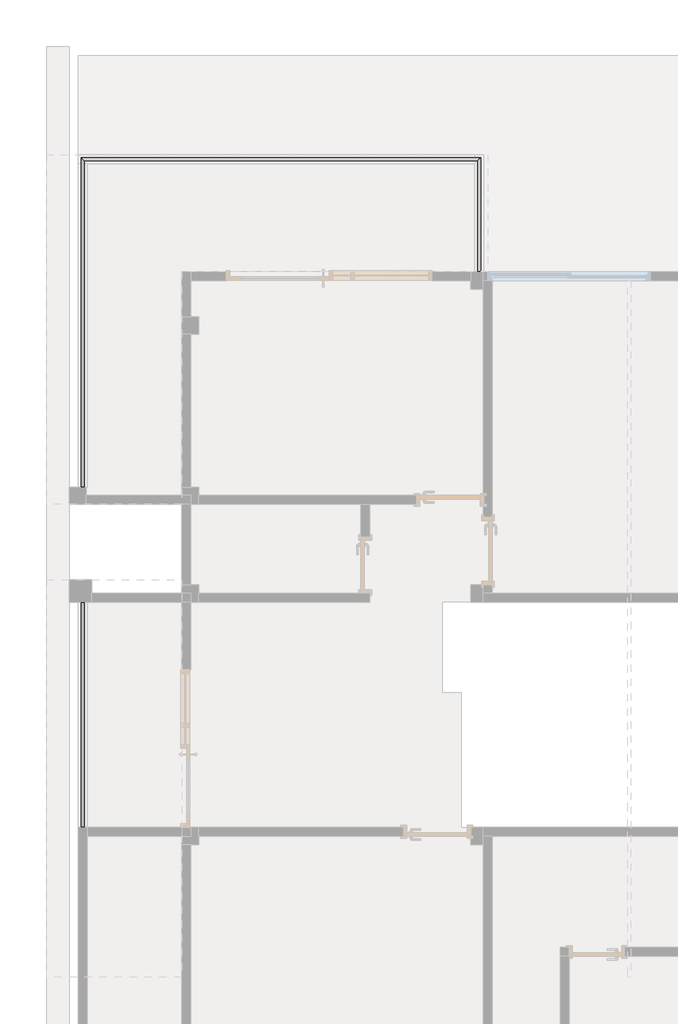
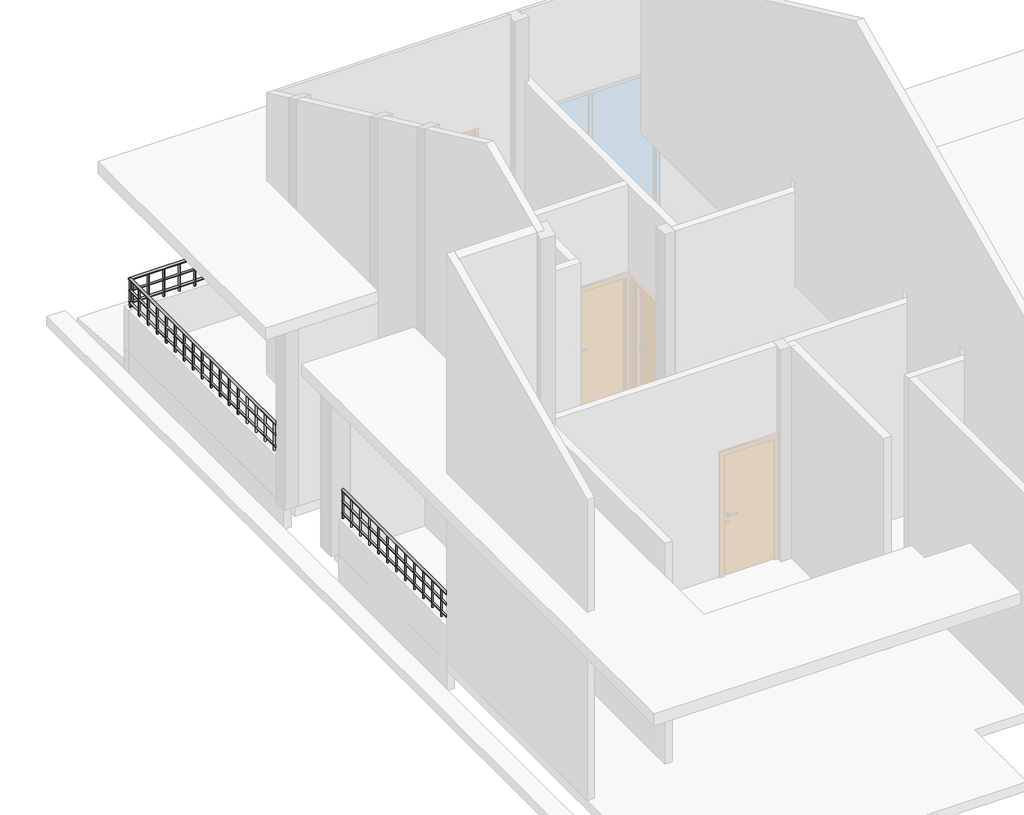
# One storey, part 4 of 6: 2 railings.
"""IFC4 building model written with IfcOpenShell, lengths in millimetres."""

from ifc_helpers import new_model, si_unit, point, frame, frame_2d, origin, place, context, project, spatial, circle_curve, ellipse_curve, trimmed, segment, composite_curve, outline, extrude, element, save
from ifc_brep_helpers import plane_surface, cylinder_surface, advanced_brep

model = new_model("IFC4")

# Units and contexts
model_context = context("Model", 3, world=origin())
ifc_project = project(units=[si_unit("LENGTHUNIT", "METRE", prefix="MILLI")], contexts=[model_context])

# Site, building, storey
site = spatial("IfcSite", under=ifc_project)
building = spatial("IfcBuilding", under=site)
storey = spatial("IfcBuildingStorey", under=building, Name="标高 2", Elevation=3900.0)

# Railings
placement = place(None, origin())
element("IfcRailing", 1, ObjectType="500 圆管", at=placement, inside=storey, context=model_context, shape_type="SolidModel", body=[
    advanced_brep(
    [(-2199.0293904, 13288.7732284, 4980.0), (-2239.0293904, 13288.7732284, 4980.0), (-2199.0293904, 14808.7732284, 4980.0), (-2239.0293904, 14768.7732284, 4980.0), (-7524.0293904, 14808.7732284, 4980.0), (-7484.0293904, 14768.7732284, 4980.0), (-7524.0293904, 10418.7732284, 4980.0), (-7484.0293904, 10418.7732284, 4980.0)],
    [
        (0, 1, circle_curve(frame((-2219.0293904, 13288.7732284, 4980.0), z_axis=(0.0, -1.0, 0.0), x_axis=(-1.0, 0.0, 0.0)), 20.0)),
        (1, 0, circle_curve(frame((-2219.0293904, 13288.7732284, 4980.0), z_axis=(0.0, -1.0, 0.0), x_axis=(-1.0, 0.0, 0.0)), 20.0)),
        (0, 2),
        (2, 3, ellipse_curve(frame((-2219.0293904, 14788.7732284, 4980.0), z_axis=(0.7071067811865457, -0.7071067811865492, 0.0), x_axis=(-0.7071067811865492, -0.7071067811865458, 0.0)), 28.2842712, 20.0)),
        (3, 1),
        (3, 2, ellipse_curve(frame((-2219.0293904, 14788.7732284, 4980.0), z_axis=(0.7071067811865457, -0.7071067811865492, 0.0), x_axis=(-0.7071067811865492, -0.7071067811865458, 0.0)), 28.2842712, 20.0)),
        (2, 4),
        (4, 5, ellipse_curve(frame((-7504.0293904, 14788.7732284, 4980.0), z_axis=(0.7071067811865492, 0.7071067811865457, 0.0), x_axis=(0.7071067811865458, -0.7071067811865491, 0.0)), 28.2842712, 20.0)),
        (5, 3),
        (5, 4, ellipse_curve(frame((-7504.0293904, 14788.7732284, 4980.0), z_axis=(0.7071067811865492, 0.7071067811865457, 0.0), x_axis=(0.7071067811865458, -0.7071067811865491, 0.0)), 28.2842712, 20.0)),
        (6, 7, circle_curve(frame((-7504.0293904, 10418.7732284, 4980.0), z_axis=(0.0, -1.0, 0.0), x_axis=(1.0, 0.0, 0.0)), 20.0)),
        (7, 6, circle_curve(frame((-7504.0293904, 10418.7732284, 4980.0), z_axis=(0.0, -1.0, 0.0), x_axis=(1.0, 0.0, 0.0)), 20.0)),
        (4, 6),
        (7, 5),
    ],
    [
        plane_surface(frame((-2219.0293904, 13288.7732284, 5000.0), z_axis=(0.0, -1.0, 0.0), x_axis=(0.0, 0.0, 1.0))),
        cylinder_surface(frame((-2219.0293904, 13288.7732284, 4980.0), z_axis=(0.0, -1.0, 0.0), x_axis=(-1.0, 0.0, 0.0)), 20.0),
        cylinder_surface(frame((-2219.0293904, 14788.7732284, 4980.0), z_axis=(1.0, 0.0, 0.0), x_axis=(0.0, -1.0, 0.0)), 20.0),
        plane_surface(frame((-7504.0293904, 10418.7732284, 5000.0), z_axis=(0.0, -1.0, 0.0), x_axis=(0.0, 0.0, -1.0))),
        cylinder_surface(frame((-7504.0293904, 14788.7732284, 4980.0), z_axis=(0.0, 1.0, 0.0), x_axis=(1.0, 0.0, 0.0)), 20.0),
    ],
    [
        (0, [[1, 2]]),
        (1, [[-1, 3, 4, 5]]),
        (1, [[-2, -5, 6, -3]]),
        (2, [[-4, 7, 8, 9]]),
        (2, [[-6, -9, 10, -7]]),
        (3, [[11, 12]]),
        (4, [[-8, 13, -12, 14]]),
        (4, [[-10, -14, -11, -13]]),
    ],
),
    advanced_brep(
    [(-2234.0293904, 13288.7732284, 4785.0), (-2204.0293904, 13288.7732284, 4785.0), (-2234.0293904, 14773.7732284, 4785.0), (-2204.0293904, 14803.7732284, 4785.0), (-7489.0293904, 14773.7732284, 4785.0), (-7519.0293904, 14803.7732284, 4785.0), (-7489.0293904, 10418.7732284, 4785.0), (-7519.0293904, 10418.7732284, 4785.0)],
    [
        (0, 1, circle_curve(frame((-2219.0293904, 13288.7732284, 4785.0), z_axis=(0.0, -1.0, 0.0), x_axis=(1.0, 0.0, 0.0)), 15.0)),
        (1, 0, circle_curve(frame((-2219.0293904, 13288.7732284, 4785.0), z_axis=(0.0, -1.0, 0.0), x_axis=(1.0, 0.0, 0.0)), 15.0)),
        (0, 2),
        (2, 3, ellipse_curve(frame((-2219.0293904, 14788.7732284, 4785.0), z_axis=(0.7071067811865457, -0.7071067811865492, 0.0), x_axis=(-0.7071067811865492, -0.7071067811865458, 0.0)), 21.2132034, 15.0)),
        (3, 1),
        (3, 2, ellipse_curve(frame((-2219.0293904, 14788.7732284, 4785.0), z_axis=(0.7071067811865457, -0.7071067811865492, 0.0), x_axis=(-0.7071067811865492, -0.7071067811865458, 0.0)), 21.2132034, 15.0)),
        (2, 4),
        (4, 5, ellipse_curve(frame((-7504.0293904, 14788.7732284, 4785.0), z_axis=(0.7071067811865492, 0.7071067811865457, 0.0), x_axis=(0.7071067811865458, -0.7071067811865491, 0.0)), 21.2132034, 15.0)),
        (5, 3),
        (5, 4, ellipse_curve(frame((-7504.0293904, 14788.7732284, 4785.0), z_axis=(0.7071067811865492, 0.7071067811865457, 0.0), x_axis=(0.7071067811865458, -0.7071067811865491, 0.0)), 21.2132034, 15.0)),
        (6, 7, circle_curve(frame((-7504.0293904, 10418.7732284, 4785.0), z_axis=(0.0, -1.0, 0.0), x_axis=(-1.0, 0.0, 0.0)), 15.0)),
        (7, 6, circle_curve(frame((-7504.0293904, 10418.7732284, 4785.0), z_axis=(0.0, -1.0, 0.0), x_axis=(-1.0, 0.0, 0.0)), 15.0)),
        (4, 6),
        (7, 5),
    ],
    [
        plane_surface(frame((-2219.0293904, 13288.7732284, 4800.0), z_axis=(0.0, -1.0, 0.0), x_axis=(0.0, 0.0, 1.0))),
        cylinder_surface(frame((-2219.0293904, 13288.7732284, 4785.0), z_axis=(0.0, -1.0, 0.0), x_axis=(1.0, 0.0, 0.0)), 15.0),
        cylinder_surface(frame((-2219.0293904, 14788.7732284, 4785.0), z_axis=(1.0, 0.0, 0.0), x_axis=(0.0, 1.0, 0.0)), 15.0),
        plane_surface(frame((-7504.0293904, 10418.7732284, 4800.0), z_axis=(0.0, -1.0, 0.0), x_axis=(0.0, 0.0, -1.0))),
        cylinder_surface(frame((-7504.0293904, 14788.7732284, 4785.0), z_axis=(0.0, 1.0, 0.0), x_axis=(-1.0, 0.0, 0.0)), 15.0),
    ],
    [
        (0, [[1, 2]]),
        (1, [[-1, 3, 4, 5]]),
        (1, [[-2, -5, 6, -3]]),
        (2, [[-4, 7, 8, 9]]),
        (2, [[-6, -9, 10, -7]]),
        (3, [[11, 12]]),
        (4, [[-8, 13, -12, 14]]),
        (4, [[-10, -14, -11, -13]]),
    ],
),
    advanced_brep(
    [(-2234.0293904, 13288.7732284, 4585.0), (-2204.0293904, 13288.7732284, 4585.0), (-2234.0293904, 14773.7732284, 4585.0), (-2204.0293904, 14803.7732284, 4585.0), (-7489.0293904, 14773.7732284, 4585.0), (-7519.0293904, 14803.7732284, 4585.0), (-7489.0293904, 10418.7732284, 4585.0), (-7519.0293904, 10418.7732284, 4585.0)],
    [
        (0, 1, circle_curve(frame((-2219.0293904, 13288.7732284, 4585.0), z_axis=(0.0, -1.0, 0.0), x_axis=(1.0, 0.0, 0.0)), 15.0)),
        (1, 0, circle_curve(frame((-2219.0293904, 13288.7732284, 4585.0), z_axis=(0.0, -1.0, 0.0), x_axis=(1.0, 0.0, 0.0)), 15.0)),
        (0, 2),
        (2, 3, ellipse_curve(frame((-2219.0293904, 14788.7732284, 4585.0), z_axis=(0.7071067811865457, -0.7071067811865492, 0.0), x_axis=(-0.7071067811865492, -0.7071067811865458, 0.0)), 21.2132034, 15.0)),
        (3, 1),
        (3, 2, ellipse_curve(frame((-2219.0293904, 14788.7732284, 4585.0), z_axis=(0.7071067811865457, -0.7071067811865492, 0.0), x_axis=(-0.7071067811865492, -0.7071067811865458, 0.0)), 21.2132034, 15.0)),
        (2, 4),
        (4, 5, ellipse_curve(frame((-7504.0293904, 14788.7732284, 4585.0), z_axis=(0.7071067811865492, 0.7071067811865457, 0.0), x_axis=(0.7071067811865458, -0.7071067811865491, 0.0)), 21.2132034, 15.0)),
        (5, 3),
        (5, 4, ellipse_curve(frame((-7504.0293904, 14788.7732284, 4585.0), z_axis=(0.7071067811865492, 0.7071067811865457, 0.0), x_axis=(0.7071067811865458, -0.7071067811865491, 0.0)), 21.2132034, 15.0)),
        (6, 7, circle_curve(frame((-7504.0293904, 10418.7732284, 4585.0), z_axis=(0.0, -1.0, 0.0), x_axis=(-1.0, 0.0, 0.0)), 15.0)),
        (7, 6, circle_curve(frame((-7504.0293904, 10418.7732284, 4585.0), z_axis=(0.0, -1.0, 0.0), x_axis=(-1.0, 0.0, 0.0)), 15.0)),
        (4, 6),
        (7, 5),
    ],
    [
        plane_surface(frame((-2219.0293904, 13288.7732284, 4600.0), z_axis=(0.0, -1.0, 0.0), x_axis=(0.0, 0.0, 1.0))),
        cylinder_surface(frame((-2219.0293904, 13288.7732284, 4585.0), z_axis=(0.0, -1.0, 0.0), x_axis=(1.0, 0.0, 0.0)), 15.0),
        cylinder_surface(frame((-2219.0293904, 14788.7732284, 4585.0), z_axis=(1.0, 0.0, 0.0), x_axis=(0.0, 1.0, 0.0)), 15.0),
        plane_surface(frame((-7504.0293904, 10418.7732284, 4600.0), z_axis=(0.0, -1.0, 0.0), x_axis=(0.0, 0.0, -1.0))),
        cylinder_surface(frame((-7504.0293904, 14788.7732284, 4585.0), z_axis=(0.0, 1.0, 0.0), x_axis=(-1.0, 0.0, 0.0)), 15.0),
    ],
    [
        (0, [[1, 2]]),
        (1, [[-1, 3, 4, 5]]),
        (1, [[-2, -5, 6, -3]]),
        (2, [[-4, 7, 8, 9]]),
        (2, [[-6, -9, 10, -7]]),
        (3, [[11, 12]]),
        (4, [[-8, 13, -12, 14]]),
        (4, [[-10, -14, -11, -13]]),
    ],
),
    extrude(outline(composite_curve([segment(trimmed(circle_curve(frame_2d((-7504.0293904, 10538.7732284)), 12.5), [point((-7491.5293904, 10538.7732284))], [point((-7516.5293904, 10538.7732284))], False, "CARTESIAN"), True, "CONTINUOUS"), segment(trimmed(circle_curve(frame_2d((-7504.0293904, 10538.7732284)), 12.5), [point((-7516.5293904, 10538.7732284))], [point((-7491.5293904, 10538.7732284))], False, "CARTESIAN"), True, "CONTINUOUS")], self_intersect=False)), frame((0.0, 0.0, 4500.0), z_axis=(0.0, 0.0, 1.0), x_axis=(1.0, 0.0, 0.0)), (0.0, 0.0, 1.0), 460.0),
    extrude(outline(composite_curve([segment(trimmed(circle_curve(frame_2d((-7504.0293904, 10788.7732284)), 12.5), [point((-7491.5293904, 10788.7732284))], [point((-7516.5293904, 10788.7732284))], False, "CARTESIAN"), True, "CONTINUOUS"), segment(trimmed(circle_curve(frame_2d((-7504.0293904, 10788.7732284)), 12.5), [point((-7516.5293904, 10788.7732284))], [point((-7491.5293904, 10788.7732284))], False, "CARTESIAN"), True, "CONTINUOUS")], self_intersect=False)), frame((0.0, 0.0, 4500.0), z_axis=(0.0, 0.0, 1.0), x_axis=(1.0, 0.0, 0.0)), (0.0, 0.0, 1.0), 460.0),
    extrude(outline(composite_curve([segment(trimmed(circle_curve(frame_2d((-7504.0293904, 11038.7732284)), 12.5), [point((-7491.5293904, 11038.7732284))], [point((-7516.5293904, 11038.7732284))], False, "CARTESIAN"), True, "CONTINUOUS"), segment(trimmed(circle_curve(frame_2d((-7504.0293904, 11038.7732284)), 12.5), [point((-7516.5293904, 11038.7732284))], [point((-7491.5293904, 11038.7732284))], False, "CARTESIAN"), True, "CONTINUOUS")], self_intersect=False)), frame((0.0, 0.0, 4500.0), z_axis=(0.0, 0.0, 1.0), x_axis=(1.0, 0.0, 0.0)), (0.0, 0.0, 1.0), 460.0),
    extrude(outline(composite_curve([segment(trimmed(circle_curve(frame_2d((-7504.0293904, 11288.7732284)), 12.5), [point((-7491.5293904, 11288.7732284))], [point((-7516.5293904, 11288.7732284))], False, "CARTESIAN"), True, "CONTINUOUS"), segment(trimmed(circle_curve(frame_2d((-7504.0293904, 11288.7732284)), 12.5), [point((-7516.5293904, 11288.7732284))], [point((-7491.5293904, 11288.7732284))], False, "CARTESIAN"), True, "CONTINUOUS")], self_intersect=False)), frame((0.0, 0.0, 4500.0), z_axis=(0.0, 0.0, 1.0), x_axis=(1.0, 0.0, 0.0)), (0.0, 0.0, 1.0), 460.0),
    extrude(outline(composite_curve([segment(trimmed(circle_curve(frame_2d((-7504.0293904, 11538.7732284)), 12.5), [point((-7491.5293904, 11538.7732284))], [point((-7516.5293904, 11538.7732284))], False, "CARTESIAN"), True, "CONTINUOUS"), segment(trimmed(circle_curve(frame_2d((-7504.0293904, 11538.7732284)), 12.5), [point((-7516.5293904, 11538.7732284))], [point((-7491.5293904, 11538.7732284))], False, "CARTESIAN"), True, "CONTINUOUS")], self_intersect=False)), frame((0.0, 0.0, 4500.0), z_axis=(0.0, 0.0, 1.0), x_axis=(1.0, 0.0, 0.0)), (0.0, 0.0, 1.0), 460.0),
    extrude(outline(composite_curve([segment(trimmed(circle_curve(frame_2d((-7504.0293904, 11788.7732284)), 12.5), [point((-7491.5293904, 11788.7732284))], [point((-7516.5293904, 11788.7732284))], False, "CARTESIAN"), True, "CONTINUOUS"), segment(trimmed(circle_curve(frame_2d((-7504.0293904, 11788.7732284)), 12.5), [point((-7516.5293904, 11788.7732284))], [point((-7491.5293904, 11788.7732284))], False, "CARTESIAN"), True, "CONTINUOUS")], self_intersect=False)), frame((0.0, 0.0, 4500.0), z_axis=(0.0, 0.0, 1.0), x_axis=(1.0, 0.0, 0.0)), (0.0, 0.0, 1.0), 460.0),
    extrude(outline(composite_curve([segment(trimmed(circle_curve(frame_2d((-7504.0293904, 12038.7732284)), 12.5), [point((-7491.5293904, 12038.7732284))], [point((-7516.5293904, 12038.7732284))], False, "CARTESIAN"), True, "CONTINUOUS"), segment(trimmed(circle_curve(frame_2d((-7504.0293904, 12038.7732284)), 12.5), [point((-7516.5293904, 12038.7732284))], [point((-7491.5293904, 12038.7732284))], False, "CARTESIAN"), True, "CONTINUOUS")], self_intersect=False)), frame((0.0, 0.0, 4500.0), z_axis=(0.0, 0.0, 1.0), x_axis=(1.0, 0.0, 0.0)), (0.0, 0.0, 1.0), 460.0),
    extrude(outline(composite_curve([segment(trimmed(circle_curve(frame_2d((-7504.0293904, 12288.7732284)), 12.5), [point((-7491.5293904, 12288.7732284))], [point((-7516.5293904, 12288.7732284))], False, "CARTESIAN"), True, "CONTINUOUS"), segment(trimmed(circle_curve(frame_2d((-7504.0293904, 12288.7732284)), 12.5), [point((-7516.5293904, 12288.7732284))], [point((-7491.5293904, 12288.7732284))], False, "CARTESIAN"), True, "CONTINUOUS")], self_intersect=False)), frame((0.0, 0.0, 4500.0), z_axis=(0.0, 0.0, 1.0), x_axis=(1.0, 0.0, 0.0)), (0.0, 0.0, 1.0), 460.0),
    extrude(outline(composite_curve([segment(trimmed(circle_curve(frame_2d((-7504.0293904, 12538.7732284)), 12.5), [point((-7491.5293904, 12538.7732284))], [point((-7516.5293904, 12538.7732284))], False, "CARTESIAN"), True, "CONTINUOUS"), segment(trimmed(circle_curve(frame_2d((-7504.0293904, 12538.7732284)), 12.5), [point((-7516.5293904, 12538.7732284))], [point((-7491.5293904, 12538.7732284))], False, "CARTESIAN"), True, "CONTINUOUS")], self_intersect=False)), frame((0.0, 0.0, 4500.0), z_axis=(0.0, 0.0, 1.0), x_axis=(1.0, 0.0, 0.0)), (0.0, 0.0, 1.0), 460.0),
    extrude(outline(composite_curve([segment(trimmed(circle_curve(frame_2d((-7504.0293904, 12788.7732284)), 12.5), [point((-7491.5293904, 12788.7732284))], [point((-7516.5293904, 12788.7732284))], False, "CARTESIAN"), True, "CONTINUOUS"), segment(trimmed(circle_curve(frame_2d((-7504.0293904, 12788.7732284)), 12.5), [point((-7516.5293904, 12788.7732284))], [point((-7491.5293904, 12788.7732284))], False, "CARTESIAN"), True, "CONTINUOUS")], self_intersect=False)), frame((0.0, 0.0, 4500.0), z_axis=(0.0, 0.0, 1.0), x_axis=(1.0, 0.0, 0.0)), (0.0, 0.0, 1.0), 460.0),
    extrude(outline(composite_curve([segment(trimmed(circle_curve(frame_2d((-7504.0293904, 13038.7732284)), 12.5), [point((-7491.5293904, 13038.7732284))], [point((-7516.5293904, 13038.7732284))], False, "CARTESIAN"), True, "CONTINUOUS"), segment(trimmed(circle_curve(frame_2d((-7504.0293904, 13038.7732284)), 12.5), [point((-7516.5293904, 13038.7732284))], [point((-7491.5293904, 13038.7732284))], False, "CARTESIAN"), True, "CONTINUOUS")], self_intersect=False)), frame((0.0, 0.0, 4500.0), z_axis=(0.0, 0.0, 1.0), x_axis=(1.0, 0.0, 0.0)), (0.0, 0.0, 1.0), 460.0),
    extrude(outline(composite_curve([segment(trimmed(circle_curve(frame_2d((-7504.0293904, 13288.7732284)), 12.5), [point((-7491.5293904, 13288.7732284))], [point((-7516.5293904, 13288.7732284))], False, "CARTESIAN"), True, "CONTINUOUS"), segment(trimmed(circle_curve(frame_2d((-7504.0293904, 13288.7732284)), 12.5), [point((-7516.5293904, 13288.7732284))], [point((-7491.5293904, 13288.7732284))], False, "CARTESIAN"), True, "CONTINUOUS")], self_intersect=False)), frame((0.0, 0.0, 4500.0), z_axis=(0.0, 0.0, 1.0), x_axis=(1.0, 0.0, 0.0)), (0.0, 0.0, 1.0), 460.0),
    extrude(outline(composite_curve([segment(trimmed(circle_curve(frame_2d((-7504.0293904, 13538.7732284)), 12.5), [point((-7491.5293904, 13538.7732284))], [point((-7516.5293904, 13538.7732284))], False, "CARTESIAN"), True, "CONTINUOUS"), segment(trimmed(circle_curve(frame_2d((-7504.0293904, 13538.7732284)), 12.5), [point((-7516.5293904, 13538.7732284))], [point((-7491.5293904, 13538.7732284))], False, "CARTESIAN"), True, "CONTINUOUS")], self_intersect=False)), frame((0.0, 0.0, 4500.0), z_axis=(0.0, 0.0, 1.0), x_axis=(1.0, 0.0, 0.0)), (0.0, 0.0, 1.0), 460.0),
    extrude(outline(composite_curve([segment(trimmed(circle_curve(frame_2d((-7504.0293904, 13788.7732284)), 12.5), [point((-7491.5293904, 13788.7732284))], [point((-7516.5293904, 13788.7732284))], False, "CARTESIAN"), True, "CONTINUOUS"), segment(trimmed(circle_curve(frame_2d((-7504.0293904, 13788.7732284)), 12.5), [point((-7516.5293904, 13788.7732284))], [point((-7491.5293904, 13788.7732284))], False, "CARTESIAN"), True, "CONTINUOUS")], self_intersect=False)), frame((0.0, 0.0, 4500.0), z_axis=(0.0, 0.0, 1.0), x_axis=(1.0, 0.0, 0.0)), (0.0, 0.0, 1.0), 460.0),
    extrude(outline(composite_curve([segment(trimmed(circle_curve(frame_2d((-7504.0293904, 14038.7732284)), 12.5), [point((-7491.5293904, 14038.7732284))], [point((-7516.5293904, 14038.7732284))], False, "CARTESIAN"), True, "CONTINUOUS"), segment(trimmed(circle_curve(frame_2d((-7504.0293904, 14038.7732284)), 12.5), [point((-7516.5293904, 14038.7732284))], [point((-7491.5293904, 14038.7732284))], False, "CARTESIAN"), True, "CONTINUOUS")], self_intersect=False)), frame((0.0, 0.0, 4500.0), z_axis=(0.0, 0.0, 1.0), x_axis=(1.0, 0.0, 0.0)), (0.0, 0.0, 1.0), 460.0),
    extrude(outline(composite_curve([segment(trimmed(circle_curve(frame_2d((-7504.0293904, 14288.7732284)), 12.5), [point((-7491.5293904, 14288.7732284))], [point((-7516.5293904, 14288.7732284))], False, "CARTESIAN"), True, "CONTINUOUS"), segment(trimmed(circle_curve(frame_2d((-7504.0293904, 14288.7732284)), 12.5), [point((-7516.5293904, 14288.7732284))], [point((-7491.5293904, 14288.7732284))], False, "CARTESIAN"), True, "CONTINUOUS")], self_intersect=False)), frame((0.0, 0.0, 4500.0), z_axis=(0.0, 0.0, 1.0), x_axis=(1.0, 0.0, 0.0)), (0.0, 0.0, 1.0), 460.0),
    extrude(outline(composite_curve([segment(trimmed(circle_curve(frame_2d((-7504.0293904, 14538.7732284)), 12.5), [point((-7491.5293904, 14538.7732284))], [point((-7516.5293904, 14538.7732284))], False, "CARTESIAN"), True, "CONTINUOUS"), segment(trimmed(circle_curve(frame_2d((-7504.0293904, 14538.7732284)), 12.5), [point((-7516.5293904, 14538.7732284))], [point((-7491.5293904, 14538.7732284))], False, "CARTESIAN"), True, "CONTINUOUS")], self_intersect=False)), frame((0.0, 0.0, 4500.0), z_axis=(0.0, 0.0, 1.0), x_axis=(1.0, 0.0, 0.0)), (0.0, 0.0, 1.0), 460.0),
    extrude(outline(composite_curve([segment(trimmed(circle_curve(frame_2d((-7469.0293904, 14788.7732284)), 12.5), [point((-7469.0293904, 14776.2732284))], [point((-7469.0293904, 14801.2732284))], False, "CARTESIAN"), True, "CONTINUOUS"), segment(trimmed(circle_curve(frame_2d((-7469.0293904, 14788.7732284)), 12.5), [point((-7469.0293904, 14801.2732284))], [point((-7469.0293904, 14776.2732284))], False, "CARTESIAN"), True, "CONTINUOUS")], self_intersect=False)), frame((0.0, 0.0, 4500.0), z_axis=(0.0, 0.0, 1.0), x_axis=(1.0, 0.0, 0.0)), (0.0, 0.0, 1.0), 460.0),
    extrude(outline(composite_curve([segment(trimmed(circle_curve(frame_2d((-7219.0293904, 14788.7732284)), 12.5), [point((-7219.0293904, 14776.2732284))], [point((-7219.0293904, 14801.2732284))], False, "CARTESIAN"), True, "CONTINUOUS"), segment(trimmed(circle_curve(frame_2d((-7219.0293904, 14788.7732284)), 12.5), [point((-7219.0293904, 14801.2732284))], [point((-7219.0293904, 14776.2732284))], False, "CARTESIAN"), True, "CONTINUOUS")], self_intersect=False)), frame((0.0, 0.0, 4500.0), z_axis=(0.0, 0.0, 1.0), x_axis=(1.0, 0.0, 0.0)), (0.0, 0.0, 1.0), 460.0),
    extrude(outline(composite_curve([segment(trimmed(circle_curve(frame_2d((-6969.0293904, 14788.7732284)), 12.5), [point((-6969.0293904, 14776.2732284))], [point((-6969.0293904, 14801.2732284))], False, "CARTESIAN"), True, "CONTINUOUS"), segment(trimmed(circle_curve(frame_2d((-6969.0293904, 14788.7732284)), 12.5), [point((-6969.0293904, 14801.2732284))], [point((-6969.0293904, 14776.2732284))], False, "CARTESIAN"), True, "CONTINUOUS")], self_intersect=False)), frame((0.0, 0.0, 4500.0), z_axis=(0.0, 0.0, 1.0), x_axis=(1.0, 0.0, 0.0)), (0.0, 0.0, 1.0), 460.0),
    extrude(outline(composite_curve([segment(trimmed(circle_curve(frame_2d((-6719.0293904, 14788.7732284)), 12.5), [point((-6719.0293904, 14776.2732284))], [point((-6719.0293904, 14801.2732284))], False, "CARTESIAN"), True, "CONTINUOUS"), segment(trimmed(circle_curve(frame_2d((-6719.0293904, 14788.7732284)), 12.5), [point((-6719.0293904, 14801.2732284))], [point((-6719.0293904, 14776.2732284))], False, "CARTESIAN"), True, "CONTINUOUS")], self_intersect=False)), frame((0.0, 0.0, 4500.0), z_axis=(0.0, 0.0, 1.0), x_axis=(1.0, 0.0, 0.0)), (0.0, 0.0, 1.0), 460.0),
    extrude(outline(composite_curve([segment(trimmed(circle_curve(frame_2d((-6469.0293904, 14788.7732284)), 12.5), [point((-6469.0293904, 14776.2732284))], [point((-6469.0293904, 14801.2732284))], False, "CARTESIAN"), True, "CONTINUOUS"), segment(trimmed(circle_curve(frame_2d((-6469.0293904, 14788.7732284)), 12.5), [point((-6469.0293904, 14801.2732284))], [point((-6469.0293904, 14776.2732284))], False, "CARTESIAN"), True, "CONTINUOUS")], self_intersect=False)), frame((0.0, 0.0, 4500.0), z_axis=(0.0, 0.0, 1.0), x_axis=(1.0, 0.0, 0.0)), (0.0, 0.0, 1.0), 460.0),
    extrude(outline(composite_curve([segment(trimmed(circle_curve(frame_2d((-6219.0293904, 14788.7732284)), 12.5), [point((-6219.0293904, 14776.2732284))], [point((-6219.0293904, 14801.2732284))], False, "CARTESIAN"), True, "CONTINUOUS"), segment(trimmed(circle_curve(frame_2d((-6219.0293904, 14788.7732284)), 12.5), [point((-6219.0293904, 14801.2732284))], [point((-6219.0293904, 14776.2732284))], False, "CARTESIAN"), True, "CONTINUOUS")], self_intersect=False)), frame((0.0, 0.0, 4500.0), z_axis=(0.0, 0.0, 1.0), x_axis=(1.0, 0.0, 0.0)), (0.0, 0.0, 1.0), 460.0),
    extrude(outline(composite_curve([segment(trimmed(circle_curve(frame_2d((-5969.0293904, 14788.7732284)), 12.5), [point((-5969.0293904, 14776.2732284))], [point((-5969.0293904, 14801.2732284))], False, "CARTESIAN"), True, "CONTINUOUS"), segment(trimmed(circle_curve(frame_2d((-5969.0293904, 14788.7732284)), 12.5), [point((-5969.0293904, 14801.2732284))], [point((-5969.0293904, 14776.2732284))], False, "CARTESIAN"), True, "CONTINUOUS")], self_intersect=False)), frame((0.0, 0.0, 4500.0), z_axis=(0.0, 0.0, 1.0), x_axis=(1.0, 0.0, 0.0)), (0.0, 0.0, 1.0), 460.0),
    extrude(outline(composite_curve([segment(trimmed(circle_curve(frame_2d((-5719.0293904, 14788.7732284)), 12.5), [point((-5719.0293904, 14776.2732284))], [point((-5719.0293904, 14801.2732284))], False, "CARTESIAN"), True, "CONTINUOUS"), segment(trimmed(circle_curve(frame_2d((-5719.0293904, 14788.7732284)), 12.5), [point((-5719.0293904, 14801.2732284))], [point((-5719.0293904, 14776.2732284))], False, "CARTESIAN"), True, "CONTINUOUS")], self_intersect=False)), frame((0.0, 0.0, 4500.0), z_axis=(0.0, 0.0, 1.0), x_axis=(1.0, 0.0, 0.0)), (0.0, 0.0, 1.0), 460.0),
    extrude(outline(composite_curve([segment(trimmed(circle_curve(frame_2d((-5469.0293904, 14788.7732284)), 12.5), [point((-5469.0293904, 14776.2732284))], [point((-5469.0293904, 14801.2732284))], False, "CARTESIAN"), True, "CONTINUOUS"), segment(trimmed(circle_curve(frame_2d((-5469.0293904, 14788.7732284)), 12.5), [point((-5469.0293904, 14801.2732284))], [point((-5469.0293904, 14776.2732284))], False, "CARTESIAN"), True, "CONTINUOUS")], self_intersect=False)), frame((0.0, 0.0, 4500.0), z_axis=(0.0, 0.0, 1.0), x_axis=(1.0, 0.0, 0.0)), (0.0, 0.0, 1.0), 460.0),
    extrude(outline(composite_curve([segment(trimmed(circle_curve(frame_2d((-5219.0293904, 14788.7732284)), 12.5), [point((-5219.0293904, 14776.2732284))], [point((-5219.0293904, 14801.2732284))], False, "CARTESIAN"), True, "CONTINUOUS"), segment(trimmed(circle_curve(frame_2d((-5219.0293904, 14788.7732284)), 12.5), [point((-5219.0293904, 14801.2732284))], [point((-5219.0293904, 14776.2732284))], False, "CARTESIAN"), True, "CONTINUOUS")], self_intersect=False)), frame((0.0, 0.0, 4500.0), z_axis=(0.0, 0.0, 1.0), x_axis=(1.0, 0.0, 0.0)), (0.0, 0.0, 1.0), 460.0),
    extrude(outline(composite_curve([segment(trimmed(circle_curve(frame_2d((-4969.0293904, 14788.7732284)), 12.5), [point((-4969.0293904, 14776.2732284))], [point((-4969.0293904, 14801.2732284))], False, "CARTESIAN"), True, "CONTINUOUS"), segment(trimmed(circle_curve(frame_2d((-4969.0293904, 14788.7732284)), 12.5), [point((-4969.0293904, 14801.2732284))], [point((-4969.0293904, 14776.2732284))], False, "CARTESIAN"), True, "CONTINUOUS")], self_intersect=False)), frame((0.0, 0.0, 4500.0), z_axis=(0.0, 0.0, 1.0), x_axis=(1.0, 0.0, 0.0)), (0.0, 0.0, 1.0), 460.0),
    extrude(outline(composite_curve([segment(trimmed(circle_curve(frame_2d((-4719.0293904, 14788.7732284)), 12.5), [point((-4719.0293904, 14776.2732284))], [point((-4719.0293904, 14801.2732284))], False, "CARTESIAN"), True, "CONTINUOUS"), segment(trimmed(circle_curve(frame_2d((-4719.0293904, 14788.7732284)), 12.5), [point((-4719.0293904, 14801.2732284))], [point((-4719.0293904, 14776.2732284))], False, "CARTESIAN"), True, "CONTINUOUS")], self_intersect=False)), frame((0.0, 0.0, 4500.0), z_axis=(0.0, 0.0, 1.0), x_axis=(1.0, 0.0, 0.0)), (0.0, 0.0, 1.0), 460.0),
    extrude(outline(composite_curve([segment(trimmed(circle_curve(frame_2d((-4469.0293904, 14788.7732284)), 12.5), [point((-4469.0293904, 14776.2732284))], [point((-4469.0293904, 14801.2732284))], False, "CARTESIAN"), True, "CONTINUOUS"), segment(trimmed(circle_curve(frame_2d((-4469.0293904, 14788.7732284)), 12.5), [point((-4469.0293904, 14801.2732284))], [point((-4469.0293904, 14776.2732284))], False, "CARTESIAN"), True, "CONTINUOUS")], self_intersect=False)), frame((0.0, 0.0, 4500.0), z_axis=(0.0, 0.0, 1.0), x_axis=(1.0, 0.0, 0.0)), (0.0, 0.0, 1.0), 460.0),
    extrude(outline(composite_curve([segment(trimmed(circle_curve(frame_2d((-4219.0293904, 14788.7732284)), 12.5), [point((-4219.0293904, 14776.2732284))], [point((-4219.0293904, 14801.2732284))], False, "CARTESIAN"), True, "CONTINUOUS"), segment(trimmed(circle_curve(frame_2d((-4219.0293904, 14788.7732284)), 12.5), [point((-4219.0293904, 14801.2732284))], [point((-4219.0293904, 14776.2732284))], False, "CARTESIAN"), True, "CONTINUOUS")], self_intersect=False)), frame((0.0, 0.0, 4500.0), z_axis=(0.0, 0.0, 1.0), x_axis=(1.0, 0.0, 0.0)), (0.0, 0.0, 1.0), 460.0),
    extrude(outline(composite_curve([segment(trimmed(circle_curve(frame_2d((-3969.0293904, 14788.7732284)), 12.5), [point((-3969.0293904, 14776.2732284))], [point((-3969.0293904, 14801.2732284))], False, "CARTESIAN"), True, "CONTINUOUS"), segment(trimmed(circle_curve(frame_2d((-3969.0293904, 14788.7732284)), 12.5), [point((-3969.0293904, 14801.2732284))], [point((-3969.0293904, 14776.2732284))], False, "CARTESIAN"), True, "CONTINUOUS")], self_intersect=False)), frame((0.0, 0.0, 4500.0), z_axis=(0.0, 0.0, 1.0), x_axis=(1.0, 0.0, 0.0)), (0.0, 0.0, 1.0), 460.0),
    extrude(outline(composite_curve([segment(trimmed(circle_curve(frame_2d((-3719.0293904, 14788.7732284)), 12.5), [point((-3719.0293904, 14776.2732284))], [point((-3719.0293904, 14801.2732284))], False, "CARTESIAN"), True, "CONTINUOUS"), segment(trimmed(circle_curve(frame_2d((-3719.0293904, 14788.7732284)), 12.5), [point((-3719.0293904, 14801.2732284))], [point((-3719.0293904, 14776.2732284))], False, "CARTESIAN"), True, "CONTINUOUS")], self_intersect=False)), frame((0.0, 0.0, 4500.0), z_axis=(0.0, 0.0, 1.0), x_axis=(1.0, 0.0, 0.0)), (0.0, 0.0, 1.0), 460.0),
    extrude(outline(composite_curve([segment(trimmed(circle_curve(frame_2d((-3469.0293904, 14788.7732284)), 12.5), [point((-3469.0293904, 14776.2732284))], [point((-3469.0293904, 14801.2732284))], False, "CARTESIAN"), True, "CONTINUOUS"), segment(trimmed(circle_curve(frame_2d((-3469.0293904, 14788.7732284)), 12.5), [point((-3469.0293904, 14801.2732284))], [point((-3469.0293904, 14776.2732284))], False, "CARTESIAN"), True, "CONTINUOUS")], self_intersect=False)), frame((0.0, 0.0, 4500.0), z_axis=(0.0, 0.0, 1.0), x_axis=(1.0, 0.0, 0.0)), (0.0, 0.0, 1.0), 460.0),
    extrude(outline(composite_curve([segment(trimmed(circle_curve(frame_2d((-3219.0293904, 14788.7732284)), 12.5), [point((-3219.0293904, 14776.2732284))], [point((-3219.0293904, 14801.2732284))], False, "CARTESIAN"), True, "CONTINUOUS"), segment(trimmed(circle_curve(frame_2d((-3219.0293904, 14788.7732284)), 12.5), [point((-3219.0293904, 14801.2732284))], [point((-3219.0293904, 14776.2732284))], False, "CARTESIAN"), True, "CONTINUOUS")], self_intersect=False)), frame((0.0, 0.0, 4500.0), z_axis=(0.0, 0.0, 1.0), x_axis=(1.0, 0.0, 0.0)), (0.0, 0.0, 1.0), 460.0),
    extrude(outline(composite_curve([segment(trimmed(circle_curve(frame_2d((-2969.0293904, 14788.7732284)), 12.5), [point((-2969.0293904, 14776.2732284))], [point((-2969.0293904, 14801.2732284))], False, "CARTESIAN"), True, "CONTINUOUS"), segment(trimmed(circle_curve(frame_2d((-2969.0293904, 14788.7732284)), 12.5), [point((-2969.0293904, 14801.2732284))], [point((-2969.0293904, 14776.2732284))], False, "CARTESIAN"), True, "CONTINUOUS")], self_intersect=False)), frame((0.0, 0.0, 4500.0), z_axis=(0.0, 0.0, 1.0), x_axis=(1.0, 0.0, 0.0)), (0.0, 0.0, 1.0), 460.0),
    extrude(outline(composite_curve([segment(trimmed(circle_curve(frame_2d((-2719.0293904, 14788.7732284)), 12.5), [point((-2719.0293904, 14776.2732284))], [point((-2719.0293904, 14801.2732284))], False, "CARTESIAN"), True, "CONTINUOUS"), segment(trimmed(circle_curve(frame_2d((-2719.0293904, 14788.7732284)), 12.5), [point((-2719.0293904, 14801.2732284))], [point((-2719.0293904, 14776.2732284))], False, "CARTESIAN"), True, "CONTINUOUS")], self_intersect=False)), frame((0.0, 0.0, 4500.0), z_axis=(0.0, 0.0, 1.0), x_axis=(1.0, 0.0, 0.0)), (0.0, 0.0, 1.0), 460.0),
    extrude(outline(composite_curve([segment(trimmed(circle_curve(frame_2d((-2469.0293904, 14788.7732284)), 12.5), [point((-2469.0293904, 14776.2732284))], [point((-2469.0293904, 14801.2732284))], False, "CARTESIAN"), True, "CONTINUOUS"), segment(trimmed(circle_curve(frame_2d((-2469.0293904, 14788.7732284)), 12.5), [point((-2469.0293904, 14801.2732284))], [point((-2469.0293904, 14776.2732284))], False, "CARTESIAN"), True, "CONTINUOUS")], self_intersect=False)), frame((0.0, 0.0, 4500.0), z_axis=(0.0, 0.0, 1.0), x_axis=(1.0, 0.0, 0.0)), (0.0, 0.0, 1.0), 460.0),
    extrude(outline(composite_curve([segment(trimmed(circle_curve(frame_2d((-2219.0293904, 14538.7732284)), 12.5), [point((-2231.5293904, 14538.7732284))], [point((-2206.5293904, 14538.7732284))], False, "CARTESIAN"), True, "CONTINUOUS"), segment(trimmed(circle_curve(frame_2d((-2219.0293904, 14538.7732284)), 12.5), [point((-2206.5293904, 14538.7732284))], [point((-2231.5293904, 14538.7732284))], False, "CARTESIAN"), True, "CONTINUOUS")], self_intersect=False)), frame((0.0, 0.0, 4500.0), z_axis=(0.0, 0.0, 1.0), x_axis=(1.0, 0.0, 0.0)), (0.0, 0.0, 1.0), 460.0),
    extrude(outline(composite_curve([segment(trimmed(circle_curve(frame_2d((-2219.0293904, 14288.7732284)), 12.5), [point((-2231.5293904, 14288.7732284))], [point((-2206.5293904, 14288.7732284))], False, "CARTESIAN"), True, "CONTINUOUS"), segment(trimmed(circle_curve(frame_2d((-2219.0293904, 14288.7732284)), 12.5), [point((-2206.5293904, 14288.7732284))], [point((-2231.5293904, 14288.7732284))], False, "CARTESIAN"), True, "CONTINUOUS")], self_intersect=False)), frame((0.0, 0.0, 4500.0), z_axis=(0.0, 0.0, 1.0), x_axis=(1.0, 0.0, 0.0)), (0.0, 0.0, 1.0), 460.0),
    extrude(outline(composite_curve([segment(trimmed(circle_curve(frame_2d((-2219.0293904, 14038.7732284)), 12.5), [point((-2231.5293904, 14038.7732284))], [point((-2206.5293904, 14038.7732284))], False, "CARTESIAN"), True, "CONTINUOUS"), segment(trimmed(circle_curve(frame_2d((-2219.0293904, 14038.7732284)), 12.5), [point((-2206.5293904, 14038.7732284))], [point((-2231.5293904, 14038.7732284))], False, "CARTESIAN"), True, "CONTINUOUS")], self_intersect=False)), frame((0.0, 0.0, 4500.0), z_axis=(0.0, 0.0, 1.0), x_axis=(1.0, 0.0, 0.0)), (0.0, 0.0, 1.0), 460.0),
    extrude(outline(composite_curve([segment(trimmed(circle_curve(frame_2d((-2219.0293904, 13788.7732284)), 12.5), [point((-2231.5293904, 13788.7732284))], [point((-2206.5293904, 13788.7732284))], False, "CARTESIAN"), True, "CONTINUOUS"), segment(trimmed(circle_curve(frame_2d((-2219.0293904, 13788.7732284)), 12.5), [point((-2206.5293904, 13788.7732284))], [point((-2231.5293904, 13788.7732284))], False, "CARTESIAN"), True, "CONTINUOUS")], self_intersect=False)), frame((0.0, 0.0, 4500.0), z_axis=(0.0, 0.0, 1.0), x_axis=(1.0, 0.0, 0.0)), (0.0, 0.0, 1.0), 460.0),
    extrude(outline(composite_curve([segment(trimmed(circle_curve(frame_2d((-2219.0293904, 13538.7732284)), 12.5), [point((-2231.5293904, 13538.7732284))], [point((-2206.5293904, 13538.7732284))], False, "CARTESIAN"), True, "CONTINUOUS"), segment(trimmed(circle_curve(frame_2d((-2219.0293904, 13538.7732284)), 12.5), [point((-2206.5293904, 13538.7732284))], [point((-2231.5293904, 13538.7732284))], False, "CARTESIAN"), True, "CONTINUOUS")], self_intersect=False)), frame((0.0, 0.0, 4500.0), z_axis=(0.0, 0.0, 1.0), x_axis=(1.0, 0.0, 0.0)), (0.0, 0.0, 1.0), 460.0),
    extrude(outline(composite_curve([segment(trimmed(circle_curve(frame_2d((-7504.0293904, 14788.7732284)), 12.5), [point((-7504.0293904, 14776.2732284))], [point((-7504.0293904, 14801.2732284))], False, "CARTESIAN"), True, "CONTINUOUS"), segment(trimmed(circle_curve(frame_2d((-7504.0293904, 14788.7732284)), 12.5), [point((-7504.0293904, 14801.2732284))], [point((-7504.0293904, 14776.2732284))], False, "CARTESIAN"), True, "CONTINUOUS")], self_intersect=False)), frame((0.0, 0.0, 4500.0), z_axis=(0.0, 0.0, 1.0), x_axis=(1.0, 0.0, 0.0)), (0.0, 0.0, 1.0), 460.0),
    extrude(outline(composite_curve([segment(trimmed(circle_curve(frame_2d((-2219.0293904, 14788.7732284)), 12.5), [point((-2231.5293904, 14788.7732284))], [point((-2206.5293904, 14788.7732284))], False, "CARTESIAN"), True, "CONTINUOUS"), segment(trimmed(circle_curve(frame_2d((-2219.0293904, 14788.7732284)), 12.5), [point((-2206.5293904, 14788.7732284))], [point((-2231.5293904, 14788.7732284))], False, "CARTESIAN"), True, "CONTINUOUS")], self_intersect=False)), frame((0.0, 0.0, 4500.0), z_axis=(0.0, 0.0, 1.0), x_axis=(1.0, 0.0, 0.0)), (0.0, 0.0, 1.0), 460.0),
    extrude(outline(composite_curve([segment(trimmed(circle_curve(frame_2d((-7504.0293904, 10431.2732284)), 12.5), [point((-7491.5293904, 10431.2732284))], [point((-7516.5293904, 10431.2732284))], False, "CARTESIAN"), True, "CONTINUOUS"), segment(trimmed(circle_curve(frame_2d((-7504.0293904, 10431.2732284)), 12.5), [point((-7516.5293904, 10431.2732284))], [point((-7491.5293904, 10431.2732284))], False, "CARTESIAN"), True, "CONTINUOUS")], self_intersect=False)), frame((0.0, 0.0, 4500.0), z_axis=(0.0, 0.0, 1.0), x_axis=(1.0, 0.0, 0.0)), (0.0, 0.0, 1.0), 460.0),
    extrude(outline(composite_curve([segment(trimmed(circle_curve(frame_2d((-2219.0293904, 13301.2732284)), 12.5), [point((-2231.5293904, 13301.2732284))], [point((-2206.5293904, 13301.2732284))], False, "CARTESIAN"), True, "CONTINUOUS"), segment(trimmed(circle_curve(frame_2d((-2219.0293904, 13301.2732284)), 12.5), [point((-2206.5293904, 13301.2732284))], [point((-2231.5293904, 13301.2732284))], False, "CARTESIAN"), True, "CONTINUOUS")], self_intersect=False)), frame((0.0, 0.0, 4500.0), z_axis=(0.0, 0.0, 1.0), x_axis=(1.0, 0.0, 0.0)), (0.0, 0.0, 1.0), 460.0),
])
element("IfcRailing", 2, ObjectType="500 圆管", at=placement, inside=storey, context=model_context, shape_type="SweptSolid", body=[
    extrude(outline(composite_curve([segment(trimmed(circle_curve(frame_2d((4980.0, -7504.0293904)), 20.0), [point((4980.0, -7524.0293904))], [point((4980.0, -7484.0293904))], False, "CARTESIAN"), True, "CONTINUOUS"), segment(trimmed(circle_curve(frame_2d((4980.0, -7504.0293904)), 20.0), [point((4980.0, -7484.0293904))], [point((4980.0, -7524.0293904))], False, "CARTESIAN"), True, "CONTINUOUS")], self_intersect=False)), frame((0.0, 5888.7732284, 0.0), z_axis=(0.0, 1.0, 0.0), x_axis=(0.0, 0.0, 1.0)), (0.0, 0.0, 1.0), 3000.0),
    extrude(outline(composite_curve([segment(trimmed(circle_curve(frame_2d((4785.0, -7504.0293904)), 15.0), [point((4785.0, -7489.0293904))], [point((4785.0, -7519.0293904))], False, "CARTESIAN"), True, "CONTINUOUS"), segment(trimmed(circle_curve(frame_2d((4785.0, -7504.0293904)), 15.0), [point((4785.0, -7519.0293904))], [point((4785.0, -7489.0293904))], False, "CARTESIAN"), True, "CONTINUOUS")], self_intersect=False)), frame((0.0, 5888.7732284, 0.0), z_axis=(0.0, 1.0, 0.0), x_axis=(0.0, 0.0, 1.0)), (0.0, 0.0, 1.0), 3000.0),
    extrude(outline(composite_curve([segment(trimmed(circle_curve(frame_2d((4585.0, -7504.0293904)), 15.0), [point((4585.0, -7489.0293904))], [point((4585.0, -7519.0293904))], False, "CARTESIAN"), True, "CONTINUOUS"), segment(trimmed(circle_curve(frame_2d((4585.0, -7504.0293904)), 15.0), [point((4585.0, -7519.0293904))], [point((4585.0, -7489.0293904))], False, "CARTESIAN"), True, "CONTINUOUS")], self_intersect=False)), frame((0.0, 5888.7732284, 0.0), z_axis=(0.0, 1.0, 0.0), x_axis=(0.0, 0.0, 1.0)), (0.0, 0.0, 1.0), 3000.0),
    extrude(outline(composite_curve([segment(trimmed(circle_curve(frame_2d((-7504.0293904, 6138.7732284)), 12.5), [point((-7491.5293904, 6138.7732284))], [point((-7516.5293904, 6138.7732284))], False, "CARTESIAN"), True, "CONTINUOUS"), segment(trimmed(circle_curve(frame_2d((-7504.0293904, 6138.7732284)), 12.5), [point((-7516.5293904, 6138.7732284))], [point((-7491.5293904, 6138.7732284))], False, "CARTESIAN"), True, "CONTINUOUS")], self_intersect=False)), frame((0.0, 0.0, 4500.0), z_axis=(0.0, 0.0, 1.0), x_axis=(1.0, 0.0, 0.0)), (0.0, 0.0, 1.0), 460.0),
    extrude(outline(composite_curve([segment(trimmed(circle_curve(frame_2d((-7504.0293904, 6388.7732284)), 12.5), [point((-7491.5293904, 6388.7732284))], [point((-7516.5293904, 6388.7732284))], False, "CARTESIAN"), True, "CONTINUOUS"), segment(trimmed(circle_curve(frame_2d((-7504.0293904, 6388.7732284)), 12.5), [point((-7516.5293904, 6388.7732284))], [point((-7491.5293904, 6388.7732284))], False, "CARTESIAN"), True, "CONTINUOUS")], self_intersect=False)), frame((0.0, 0.0, 4500.0), z_axis=(0.0, 0.0, 1.0), x_axis=(1.0, 0.0, 0.0)), (0.0, 0.0, 1.0), 460.0),
    extrude(outline(composite_curve([segment(trimmed(circle_curve(frame_2d((-7504.0293904, 6638.7732284)), 12.5), [point((-7491.5293904, 6638.7732284))], [point((-7516.5293904, 6638.7732284))], False, "CARTESIAN"), True, "CONTINUOUS"), segment(trimmed(circle_curve(frame_2d((-7504.0293904, 6638.7732284)), 12.5), [point((-7516.5293904, 6638.7732284))], [point((-7491.5293904, 6638.7732284))], False, "CARTESIAN"), True, "CONTINUOUS")], self_intersect=False)), frame((0.0, 0.0, 4500.0), z_axis=(0.0, 0.0, 1.0), x_axis=(1.0, 0.0, 0.0)), (0.0, 0.0, 1.0), 460.0),
    extrude(outline(composite_curve([segment(trimmed(circle_curve(frame_2d((-7504.0293904, 6888.7732284)), 12.5), [point((-7491.5293904, 6888.7732284))], [point((-7516.5293904, 6888.7732284))], False, "CARTESIAN"), True, "CONTINUOUS"), segment(trimmed(circle_curve(frame_2d((-7504.0293904, 6888.7732284)), 12.5), [point((-7516.5293904, 6888.7732284))], [point((-7491.5293904, 6888.7732284))], False, "CARTESIAN"), True, "CONTINUOUS")], self_intersect=False)), frame((0.0, 0.0, 4500.0), z_axis=(0.0, 0.0, 1.0), x_axis=(1.0, 0.0, 0.0)), (0.0, 0.0, 1.0), 460.0),
    extrude(outline(composite_curve([segment(trimmed(circle_curve(frame_2d((-7504.0293904, 7138.7732284)), 12.5), [point((-7491.5293904, 7138.7732284))], [point((-7516.5293904, 7138.7732284))], False, "CARTESIAN"), True, "CONTINUOUS"), segment(trimmed(circle_curve(frame_2d((-7504.0293904, 7138.7732284)), 12.5), [point((-7516.5293904, 7138.7732284))], [point((-7491.5293904, 7138.7732284))], False, "CARTESIAN"), True, "CONTINUOUS")], self_intersect=False)), frame((0.0, 0.0, 4500.0), z_axis=(0.0, 0.0, 1.0), x_axis=(1.0, 0.0, 0.0)), (0.0, 0.0, 1.0), 460.0),
    extrude(outline(composite_curve([segment(trimmed(circle_curve(frame_2d((-7504.0293904, 7388.7732284)), 12.5), [point((-7491.5293904, 7388.7732284))], [point((-7516.5293904, 7388.7732284))], False, "CARTESIAN"), True, "CONTINUOUS"), segment(trimmed(circle_curve(frame_2d((-7504.0293904, 7388.7732284)), 12.5), [point((-7516.5293904, 7388.7732284))], [point((-7491.5293904, 7388.7732284))], False, "CARTESIAN"), True, "CONTINUOUS")], self_intersect=False)), frame((0.0, 0.0, 4500.0), z_axis=(0.0, 0.0, 1.0), x_axis=(1.0, 0.0, 0.0)), (0.0, 0.0, 1.0), 460.0),
    extrude(outline(composite_curve([segment(trimmed(circle_curve(frame_2d((-7504.0293904, 7638.7732284)), 12.5), [point((-7491.5293904, 7638.7732284))], [point((-7516.5293904, 7638.7732284))], False, "CARTESIAN"), True, "CONTINUOUS"), segment(trimmed(circle_curve(frame_2d((-7504.0293904, 7638.7732284)), 12.5), [point((-7516.5293904, 7638.7732284))], [point((-7491.5293904, 7638.7732284))], False, "CARTESIAN"), True, "CONTINUOUS")], self_intersect=False)), frame((0.0, 0.0, 4500.0), z_axis=(0.0, 0.0, 1.0), x_axis=(1.0, 0.0, 0.0)), (0.0, 0.0, 1.0), 460.0),
    extrude(outline(composite_curve([segment(trimmed(circle_curve(frame_2d((-7504.0293904, 7888.7732284)), 12.5), [point((-7491.5293904, 7888.7732284))], [point((-7516.5293904, 7888.7732284))], False, "CARTESIAN"), True, "CONTINUOUS"), segment(trimmed(circle_curve(frame_2d((-7504.0293904, 7888.7732284)), 12.5), [point((-7516.5293904, 7888.7732284))], [point((-7491.5293904, 7888.7732284))], False, "CARTESIAN"), True, "CONTINUOUS")], self_intersect=False)), frame((0.0, 0.0, 4500.0), z_axis=(0.0, 0.0, 1.0), x_axis=(1.0, 0.0, 0.0)), (0.0, 0.0, 1.0), 460.0),
    extrude(outline(composite_curve([segment(trimmed(circle_curve(frame_2d((-7504.0293904, 8138.7732284)), 12.5), [point((-7491.5293904, 8138.7732284))], [point((-7516.5293904, 8138.7732284))], False, "CARTESIAN"), True, "CONTINUOUS"), segment(trimmed(circle_curve(frame_2d((-7504.0293904, 8138.7732284)), 12.5), [point((-7516.5293904, 8138.7732284))], [point((-7491.5293904, 8138.7732284))], False, "CARTESIAN"), True, "CONTINUOUS")], self_intersect=False)), frame((0.0, 0.0, 4500.0), z_axis=(0.0, 0.0, 1.0), x_axis=(1.0, 0.0, 0.0)), (0.0, 0.0, 1.0), 460.0),
    extrude(outline(composite_curve([segment(trimmed(circle_curve(frame_2d((-7504.0293904, 8388.7732284)), 12.5), [point((-7491.5293904, 8388.7732284))], [point((-7516.5293904, 8388.7732284))], False, "CARTESIAN"), True, "CONTINUOUS"), segment(trimmed(circle_curve(frame_2d((-7504.0293904, 8388.7732284)), 12.5), [point((-7516.5293904, 8388.7732284))], [point((-7491.5293904, 8388.7732284))], False, "CARTESIAN"), True, "CONTINUOUS")], self_intersect=False)), frame((0.0, 0.0, 4500.0), z_axis=(0.0, 0.0, 1.0), x_axis=(1.0, 0.0, 0.0)), (0.0, 0.0, 1.0), 460.0),
    extrude(outline(composite_curve([segment(trimmed(circle_curve(frame_2d((-7504.0293904, 8638.7732284)), 12.5), [point((-7491.5293904, 8638.7732284))], [point((-7516.5293904, 8638.7732284))], False, "CARTESIAN"), True, "CONTINUOUS"), segment(trimmed(circle_curve(frame_2d((-7504.0293904, 8638.7732284)), 12.5), [point((-7516.5293904, 8638.7732284))], [point((-7491.5293904, 8638.7732284))], False, "CARTESIAN"), True, "CONTINUOUS")], self_intersect=False)), frame((0.0, 0.0, 4500.0), z_axis=(0.0, 0.0, 1.0), x_axis=(1.0, 0.0, 0.0)), (0.0, 0.0, 1.0), 460.0),
    extrude(outline(composite_curve([segment(trimmed(circle_curve(frame_2d((-7504.0293904, 5901.2732284)), 12.5), [point((-7491.5293904, 5901.2732284))], [point((-7516.5293904, 5901.2732284))], False, "CARTESIAN"), True, "CONTINUOUS"), segment(trimmed(circle_curve(frame_2d((-7504.0293904, 5901.2732284)), 12.5), [point((-7516.5293904, 5901.2732284))], [point((-7491.5293904, 5901.2732284))], False, "CARTESIAN"), True, "CONTINUOUS")], self_intersect=False)), frame((0.0, 0.0, 4500.0), z_axis=(0.0, 0.0, 1.0), x_axis=(1.0, 0.0, 0.0)), (0.0, 0.0, 1.0), 460.0),
    extrude(outline(composite_curve([segment(trimmed(circle_curve(frame_2d((-7504.0293904, 8876.2732284)), 12.5), [point((-7491.5293904, 8876.2732284))], [point((-7516.5293904, 8876.2732284))], False, "CARTESIAN"), True, "CONTINUOUS"), segment(trimmed(circle_curve(frame_2d((-7504.0293904, 8876.2732284)), 12.5), [point((-7516.5293904, 8876.2732284))], [point((-7491.5293904, 8876.2732284))], False, "CARTESIAN"), True, "CONTINUOUS")], self_intersect=False)), frame((0.0, 0.0, 4500.0), z_axis=(0.0, 0.0, 1.0), x_axis=(1.0, 0.0, 0.0)), (0.0, 0.0, 1.0), 460.0),
])

save(model, "model.ifc")
